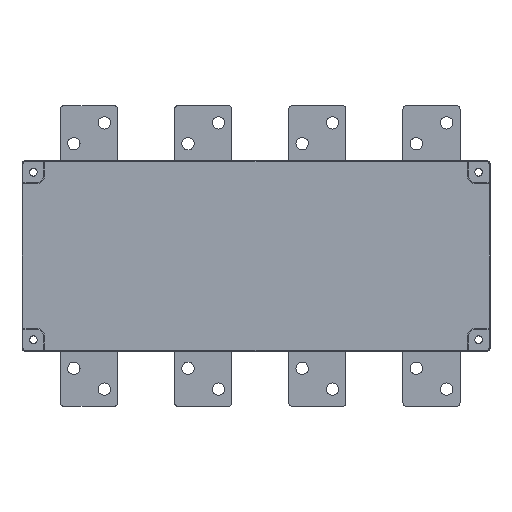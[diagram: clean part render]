
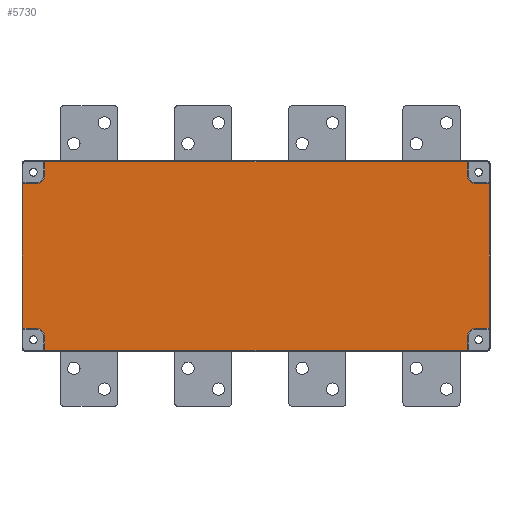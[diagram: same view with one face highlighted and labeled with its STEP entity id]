
A CAD part, front view. The second image highlights one B-rep face of the part: STEP entity #5730.
In plain terms, the highlighted planar face has unit normal (0, -1, 0).
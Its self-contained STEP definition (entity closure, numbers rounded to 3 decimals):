
#2851=DIRECTION('',(0.,0.,1.));
#2852=VECTOR('',#2851,14.);
#2853=CARTESIAN_POINT('',(-164.,0.,-99.));
#2854=LINE('',#2853,#2852);
#2855=CARTESIAN_POINT('',(-173.,0.,-85.));
#2856=DIRECTION('',(0.,-1.,0.));
#2857=DIRECTION('',(1.,0.,0.));
#2858=AXIS2_PLACEMENT_3D('',#2855,#2856,#2857);
#2860=DIRECTION('',(1.,0.,0.));
#2861=VECTOR('',#2860,14.);
#2862=CARTESIAN_POINT('',(-187.,0.,76.));
#2863=LINE('',#2862,#2861);
#2864=CARTESIAN_POINT('',(-173.,0.,85.));
#2865=DIRECTION('',(0.,-1.,0.));
#2866=DIRECTION('',(0.,0.,-1.));
#2867=AXIS2_PLACEMENT_3D('',#2864,#2865,#2866);
#2869=CARTESIAN_POINT('',(289.,0.,85.));
#2870=DIRECTION('',(0.,-1.,0.));
#2871=DIRECTION('',(-1.,0.,0.));
#2872=AXIS2_PLACEMENT_3D('',#2869,#2870,#2871);
#2874=DIRECTION('',(1.,0.,0.));
#2875=VECTOR('',#2874,14.);
#2876=CARTESIAN_POINT('',(289.,0.,76.));
#2877=LINE('',#2876,#2875);
#2878=CARTESIAN_POINT('',(289.,0.,-85.));
#2879=DIRECTION('',(0.,-1.,0.));
#2880=DIRECTION('',(0.,0.,1.));
#2881=AXIS2_PLACEMENT_3D('',#2878,#2879,#2880);
#2895=DIRECTION('',(1.,0.,0.));
#2896=VECTOR('',#2895,444.);
#2897=CARTESIAN_POINT('',(-164.,0.,-99.));
#2898=LINE('',#2897,#2896);
#2987=DIRECTION('',(0.,0.,1.));
#2988=VECTOR('',#2987,14.);
#2989=CARTESIAN_POINT('',(280.,0.,-99.));
#2990=LINE('',#2989,#2988);
#3148=DIRECTION('',(0.,0.,1.));
#3149=VECTOR('',#3148,152.);
#3150=CARTESIAN_POINT('',(303.,0.,-76.));
#3151=LINE('',#3150,#3149);
#3172=DIRECTION('',(1.,0.,0.));
#3173=VECTOR('',#3172,14.);
#3174=CARTESIAN_POINT('',(289.,0.,-76.));
#3175=LINE('',#3174,#3173);
#3222=DIRECTION('',(0.,0.,1.));
#3223=VECTOR('',#3222,14.);
#3224=CARTESIAN_POINT('',(280.,0.,85.));
#3225=LINE('',#3224,#3223);
#3246=DIRECTION('',(-1.,0.,0.));
#3247=VECTOR('',#3246,444.);
#3248=CARTESIAN_POINT('',(280.,0.,99.));
#3249=LINE('',#3248,#3247);
#3398=DIRECTION('',(1.,0.,0.));
#3399=VECTOR('',#3398,14.);
#3400=CARTESIAN_POINT('',(-187.,0.,-76.));
#3401=LINE('',#3400,#3399);
#3445=DIRECTION('',(0.,0.,-1.));
#3446=VECTOR('',#3445,152.);
#3447=CARTESIAN_POINT('',(-187.,0.,76.));
#3448=LINE('',#3447,#3446);
#3503=DIRECTION('',(0.,0.,-1.));
#3504=VECTOR('',#3503,14.);
#3505=CARTESIAN_POINT('',(-164.,0.,99.));
#3506=LINE('',#3505,#3504);
#5071=CARTESIAN_POINT('',(-164.,0.,-99.));
#5072=CARTESIAN_POINT('',(280.,0.,-99.));
#5073=VERTEX_POINT('',#5071);
#5074=VERTEX_POINT('',#5072);
#5075=CARTESIAN_POINT('',(-164.,0.,-85.));
#5076=VERTEX_POINT('',#5075);
#5077=CARTESIAN_POINT('',(-173.,0.,-76.));
#5078=VERTEX_POINT('',#5077);
#5079=CARTESIAN_POINT('',(-187.,0.,-76.));
#5080=VERTEX_POINT('',#5079);
#5081=CARTESIAN_POINT('',(-187.,0.,76.));
#5082=VERTEX_POINT('',#5081);
#5083=CARTESIAN_POINT('',(-173.,0.,76.));
#5084=VERTEX_POINT('',#5083);
#5085=CARTESIAN_POINT('',(-164.,0.,85.));
#5086=VERTEX_POINT('',#5085);
#5087=CARTESIAN_POINT('',(-164.,0.,99.));
#5088=VERTEX_POINT('',#5087);
#5089=CARTESIAN_POINT('',(280.,0.,99.));
#5090=VERTEX_POINT('',#5089);
#5091=CARTESIAN_POINT('',(280.,0.,85.));
#5092=VERTEX_POINT('',#5091);
#5093=CARTESIAN_POINT('',(289.,0.,76.));
#5094=VERTEX_POINT('',#5093);
#5095=CARTESIAN_POINT('',(303.,0.,76.));
#5096=VERTEX_POINT('',#5095);
#5097=CARTESIAN_POINT('',(303.,0.,-76.));
#5098=VERTEX_POINT('',#5097);
#5099=CARTESIAN_POINT('',(289.,0.,-76.));
#5100=VERTEX_POINT('',#5099);
#5101=CARTESIAN_POINT('',(280.,0.,-85.));
#5102=VERTEX_POINT('',#5101);
#5691=CARTESIAN_POINT('',(0.,0.,0.));
#5692=DIRECTION('',(0.,1.,0.));
#5693=DIRECTION('',(1.,0.,0.));
#5694=AXIS2_PLACEMENT_3D('',#5691,#5692,#5693);
#5695=PLANE('',#5694);
#5697=ORIENTED_EDGE('',*,*,#5696,.F.);
#5699=ORIENTED_EDGE('',*,*,#5698,.T.);
#5701=ORIENTED_EDGE('',*,*,#5700,.T.);
#5703=ORIENTED_EDGE('',*,*,#5702,.F.);
#5705=ORIENTED_EDGE('',*,*,#5704,.F.);
#5707=ORIENTED_EDGE('',*,*,#5706,.T.);
#5709=ORIENTED_EDGE('',*,*,#5708,.T.);
#5711=ORIENTED_EDGE('',*,*,#5710,.F.);
#5713=ORIENTED_EDGE('',*,*,#5712,.F.);
#5715=ORIENTED_EDGE('',*,*,#5714,.F.);
#5717=ORIENTED_EDGE('',*,*,#5716,.T.);
#5719=ORIENTED_EDGE('',*,*,#5718,.T.);
#5721=ORIENTED_EDGE('',*,*,#5720,.F.);
#5723=ORIENTED_EDGE('',*,*,#5722,.F.);
#5725=ORIENTED_EDGE('',*,*,#5724,.T.);
#5727=ORIENTED_EDGE('',*,*,#5726,.F.);
#5728=EDGE_LOOP('',(#5697,#5699,#5701,#5703,#5705,#5707,#5709,#5711,#5713,#5715,
#5717,#5719,#5721,#5723,#5725,#5727));
#5729=FACE_OUTER_BOUND('',#5728,.F.);
#2859=CIRCLE('',#2858,9.);
#2868=CIRCLE('',#2867,9.);
#2873=CIRCLE('',#2872,9.);
#2882=CIRCLE('',#2881,9.);
#5696=EDGE_CURVE('',#5073,#5074,#2898,.T.);
#5698=EDGE_CURVE('',#5073,#5076,#2854,.T.);
#5700=EDGE_CURVE('',#5076,#5078,#2859,.T.);
#5702=EDGE_CURVE('',#5080,#5078,#3401,.T.);
#5704=EDGE_CURVE('',#5082,#5080,#3448,.T.);
#5706=EDGE_CURVE('',#5082,#5084,#2863,.T.);
#5708=EDGE_CURVE('',#5084,#5086,#2868,.T.);
#5710=EDGE_CURVE('',#5088,#5086,#3506,.T.);
#5712=EDGE_CURVE('',#5090,#5088,#3249,.T.);
#5714=EDGE_CURVE('',#5092,#5090,#3225,.T.);
#5716=EDGE_CURVE('',#5092,#5094,#2873,.T.);
#5718=EDGE_CURVE('',#5094,#5096,#2877,.T.);
#5720=EDGE_CURVE('',#5098,#5096,#3151,.T.);
#5722=EDGE_CURVE('',#5100,#5098,#3175,.T.);
#5724=EDGE_CURVE('',#5100,#5102,#2882,.T.);
#5726=EDGE_CURVE('',#5074,#5102,#2990,.T.);
#5730=ADVANCED_FACE('',(#5729),#5695,.F.);
